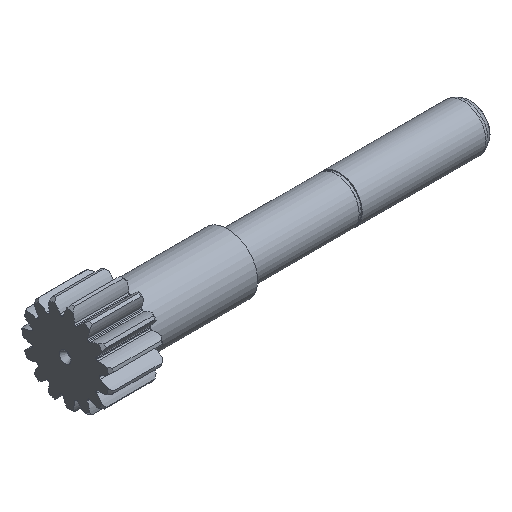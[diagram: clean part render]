
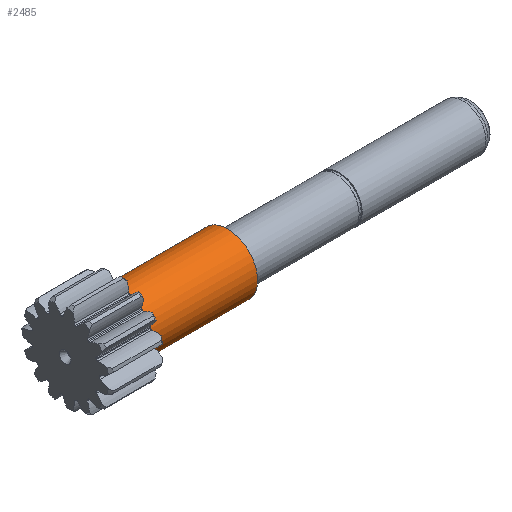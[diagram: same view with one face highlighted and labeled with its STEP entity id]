
A CAD part, isometric view. The second image highlights one B-rep face of the part: STEP entity #2485.
In plain terms, the highlighted cylindrical face has radius 11 mm (diameter 22 mm), a full revolution.
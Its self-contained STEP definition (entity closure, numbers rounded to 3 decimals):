
#78=FACE_OUTER_BOUND('',#223,.T.);
#223=EDGE_LOOP('',(#1601,#1602,#1603,#1604));
#442=LINE('',#3988,#551);
#551=VECTOR('',#3066,11.);
#654=CIRCLE('',#2659,11.);
#655=CIRCLE('',#2660,11.);
#900=VERTEX_POINT('',#3985);
#901=VERTEX_POINT('',#3987);
#1179=EDGE_CURVE('',#900,#900,#654,.T.);
#1180=EDGE_CURVE('',#900,#901,#442,.T.);
#1181=EDGE_CURVE('',#901,#901,#655,.T.);
#1601=ORIENTED_EDGE('',*,*,#1179,.F.);
#1602=ORIENTED_EDGE('',*,*,#1180,.T.);
#1603=ORIENTED_EDGE('',*,*,#1181,.F.);
#1604=ORIENTED_EDGE('',*,*,#1180,.F.);
#2382=CYLINDRICAL_SURFACE('',#2658,11.);
#2485=ADVANCED_FACE('',(#78),#2382,.T.);
#2658=AXIS2_PLACEMENT_3D('',#3984,#3062,#3063);
#2659=AXIS2_PLACEMENT_3D('',#3986,#3064,#3065);
#2660=AXIS2_PLACEMENT_3D('',#3989,#3067,#3068);
#3062=DIRECTION('center_axis',(1.,0.,0.));
#3063=DIRECTION('ref_axis',(0.,1.,0.));
#3064=DIRECTION('center_axis',(1.,0.,0.));
#3065=DIRECTION('ref_axis',(0.,0.,-1.));
#3066=DIRECTION('',(-1.,0.,0.));
#3067=DIRECTION('center_axis',(-1.,0.,0.));
#3068=DIRECTION('ref_axis',(0.,1.,0.));
#3984=CARTESIAN_POINT('Origin',(40.,0.,0.));
#3985=CARTESIAN_POINT('',(60.,-11.,0.));
#3986=CARTESIAN_POINT('Origin',(60.,0.,0.));
#3987=CARTESIAN_POINT('',(20.,-11.,0.));
#3988=CARTESIAN_POINT('',(40.,-11.,0.));
#3989=CARTESIAN_POINT('Origin',(20.,0.,0.));
